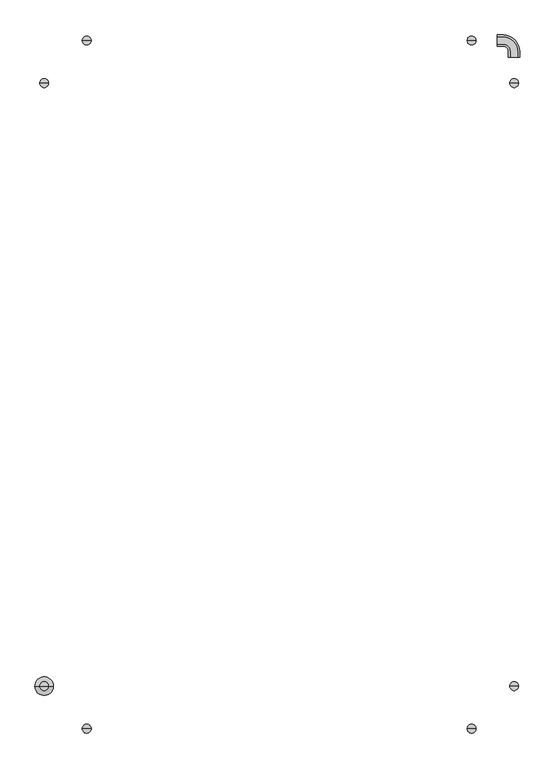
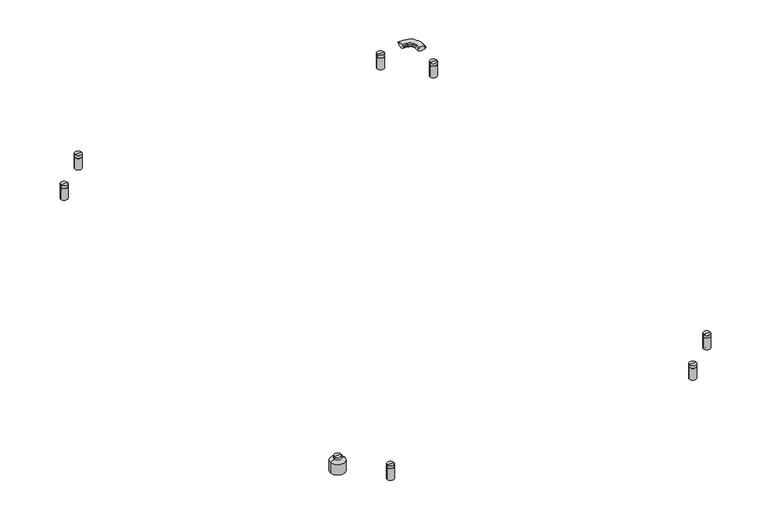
"""IFC4 building model written with IfcOpenShell, lengths in millimetres: light fixture geometry, ARTEMIDE-AoL-StandAlone-SquareRectangular_WallCeiling : StandALone_SemiRecessed_SquareRectangular-1321x1911mm 11754lm 3000K."""

from ifc_helpers import new_model, si_unit, point, frame, origin, place, context, project, spatial, polyline, circle_curve, ellipse_curve, trimmed, source, transform, mapped, element, save
from ifc_brep_helpers import plane_surface, cylinder_surface, revolved_surface, advanced_brep


def light_fixture_9279e79d(model_context):
    return source(origin(), model_context, "Body", "AdvancedBrep", [
        advanced_brep(
        [(25.0, 0.0, 54.0), (37.0, 0.0, 54.0), (13.0, 0.0, 54.0), (0.0, 0.0, 0.0), (50.0, 0.0, 0.0), (25.0, 0.0, 0.0), (0.0, 0.0, 37.5120373), (50.0, 0.0, 37.5120373), (13.0, 0.0, 44.4453706), (37.0, 0.0, 44.4453706)],
        [
            (0, 1),
            (1, 2, circle_curve(frame((25.0, 0.0, 54.0), z_axis=(0.0, 0.0, 1.0), x_axis=(1.0, 0.0, 0.0)), 12.0)),
            (2, 0),
            (2, 1, circle_curve(frame((25.0, 0.0, 54.0), z_axis=(0.0, 0.0, 1.0), x_axis=(1.0, 0.0, 0.0)), 12.0)),
            (3, 4, circle_curve(frame((25.0, 0.0, 0.0), z_axis=(0.0, 0.0, -1.0), x_axis=(1.0, 0.0, 0.0)), 25.0)),
            (4, 5),
            (5, 3),
            (4, 3, circle_curve(frame((25.0, 0.0, 0.0), z_axis=(0.0, 0.0, -1.0), x_axis=(1.0, 0.0, 0.0)), 25.0)),
            (6, 7, circle_curve(frame((25.0, 0.0, 37.5120373), z_axis=(0.0, 0.0, -1.0), x_axis=(1.0, 0.0, 0.0)), 25.0)),
            (7, 4),
            (3, 6),
            (7, 6, circle_curve(frame((25.0, 0.0, 37.5120373), z_axis=(0.0, 0.0, -1.0), x_axis=(1.0, 0.0, 0.0)), 25.0)),
            (8, 9, circle_curve(frame((25.0, 0.0, 44.4453706), z_axis=(0.0, 0.0, -1.0), x_axis=(1.0, 0.0, 0.0)), 12.0)),
            (9, 7),
            (6, 8),
            (9, 8, circle_curve(frame((25.0, 0.0, 44.4453706), z_axis=(0.0, 0.0, -1.0), x_axis=(1.0, 0.0, 0.0)), 12.0)),
            (1, 9),
            (8, 2),
        ],
        [
            plane_surface(frame((25.0, 0.0, 54.0), z_axis=(0.0, 0.0, 1.0), x_axis=(1.0, 0.0, 0.0))),
            plane_surface(frame((25.0, 0.0, 0.0), z_axis=(0.0, 0.0, -1.0), x_axis=(1.0, 0.0, 0.0))),
            cylinder_surface(frame((25.0, 0.0, -58.83358), z_axis=(0.0, 0.0, 1.0), x_axis=(1.0, 0.0, 0.0)), 25.0),
            revolved_surface(polyline([(50.0, 0.0, 37.5120373), (37.0, 0.0, 44.4453706)]), (25.0, 0.0, -58.83358), (0.0, 0.0, 1.0)),
            cylinder_surface(frame((25.0, 0.0, -58.83358), z_axis=(0.0, 0.0, 1.0), x_axis=(1.0, 0.0, 0.0)), 12.0),
        ],
        [
            (0, [[1, 2, 3]]),
            (0, [[-3, 4, -1]]),
            (1, [[5, 6, 7]]),
            (1, [[8, -7, -6]]),
            (2, [[9, 10, -5, 11]]),
            (2, [[12, -11, -8, -10]]),
            (3, [[13, 14, -9, 15]]),
            (3, [[16, -15, -12, -14]]),
            (4, [[-2, 17, -13, 18]]),
            (4, [[-4, -18, -16, -17]]),
        ],
    ),
        advanced_brep(
        [(152.0, 1746.0, 1.0), (128.0, 1746.0, 1.0), (134.5, 1746.0, 1.0), (145.5, 1746.0, 1.0), (152.0, 1746.0, 42.5), (128.0, 1746.0, 42.5), (149.5243756, 1746.0, 42.5), (130.4756244, 1746.0, 42.5), (149.5243756, 1746.0, 43.4995055), (130.4756244, 1746.0, 43.4995055), (152.0, 1746.0, 43.4995055), (128.0, 1746.0, 43.4995055), (152.0, 1746.0, 52.9579379), (128.0, 1746.0, 52.9579379), (140.0, 1746.0, 52.9579379), (145.5, 1746.0, 0.0), (134.5, 1746.0, 0.0), (140.0, 1746.0, 0.0)],
        [
            (0, 1, circle_curve(frame((140.0, 1746.0, 1.0), z_axis=(0.0, 0.0, -1.0), x_axis=(-1.0, 0.0, 0.0)), 12.0)),
            (1, 2),
            (2, 3, circle_curve(frame((140.0, 1746.0, 1.0), z_axis=(0.0, 0.0, 1.0), x_axis=(-1.0, 0.0, 0.0)), 5.5)),
            (3, 0),
            (1, 0, circle_curve(frame((140.0, 1746.0, 1.0), z_axis=(0.0, 0.0, -1.0), x_axis=(-1.0, 0.0, 0.0)), 12.0)),
            (3, 2, circle_curve(frame((140.0, 1746.0, 1.0), z_axis=(0.0, 0.0, 1.0), x_axis=(-1.0, 0.0, 0.0)), 5.5)),
            (4, 5, circle_curve(frame((140.0, 1746.0, 42.5), z_axis=(0.0, 0.0, -1.0), x_axis=(-1.0, 0.0, 0.0)), 12.0)),
            (5, 1),
            (0, 4),
            (5, 4, circle_curve(frame((140.0, 1746.0, 42.5), z_axis=(0.0, 0.0, -1.0), x_axis=(-1.0, 0.0, 0.0)), 12.0)),
            (6, 7, circle_curve(frame((140.0, 1746.0, 42.5), z_axis=(0.0, 0.0, -1.0), x_axis=(-1.0, 0.0, 0.0)), 9.5243756)),
            (7, 5),
            (4, 6),
            (7, 6, circle_curve(frame((140.0, 1746.0, 42.5), z_axis=(0.0, 0.0, -1.0), x_axis=(-1.0, 0.0, 0.0)), 9.5243756)),
            (8, 9, circle_curve(frame((140.0, 1746.0, 43.4995055), z_axis=(0.0, 0.0, -1.0), x_axis=(-1.0, 0.0, 0.0)), 9.5243756)),
            (9, 7),
            (6, 8),
            (9, 8, circle_curve(frame((140.0, 1746.0, 43.4995055), z_axis=(0.0, 0.0, -1.0), x_axis=(-1.0, 0.0, 0.0)), 9.5243756)),
            (10, 11, circle_curve(frame((140.0, 1746.0, 43.4995055), z_axis=(0.0, 0.0, -1.0), x_axis=(-1.0, 0.0, 0.0)), 12.0)),
            (11, 9),
            (8, 10),
            (11, 10, circle_curve(frame((140.0, 1746.0, 43.4995055), z_axis=(0.0, 0.0, -1.0), x_axis=(-1.0, 0.0, 0.0)), 12.0)),
            (12, 13, circle_curve(frame((140.0, 1746.0, 52.9579379), z_axis=(0.0, 0.0, -1.0), x_axis=(-1.0, 0.0, 0.0)), 12.0)),
            (13, 11),
            (10, 12),
            (13, 12, circle_curve(frame((140.0, 1746.0, 52.9579379), z_axis=(0.0, 0.0, -1.0), x_axis=(-1.0, 0.0, 0.0)), 12.0)),
            (14, 13),
            (12, 14),
            (15, 16, circle_curve(frame((140.0, 1746.0, 0.0), z_axis=(0.0, 0.0, -1.0), x_axis=(-1.0, 0.0, 0.0)), 5.5)),
            (16, 17),
            (17, 15),
            (16, 15, circle_curve(frame((140.0, 1746.0, 0.0), z_axis=(0.0, 0.0, -1.0), x_axis=(-1.0, 0.0, 0.0)), 5.5)),
            (2, 16),
            (15, 3),
        ],
        [
            plane_surface(frame((140.0, 1746.0, 1.0), z_axis=(0.0, 0.0, -1.0), x_axis=(-1.0, 0.0, 0.0))),
            cylinder_surface(frame((140.0, 1746.0, -58.83358), z_axis=(0.0, 0.0, 1.0), x_axis=(-1.0, 0.0, 0.0)), 12.0),
            plane_surface(frame((140.0, 1746.0, 42.5), z_axis=(0.0, 0.0, 1.0), x_axis=(-1.0, 0.0, 0.0))),
            cylinder_surface(frame((140.0, 1746.0, -58.83358), z_axis=(0.0, 0.0, 1.0), x_axis=(-1.0, 0.0, 0.0)), 9.5243756),
            plane_surface(frame((140.0, 1746.0, 43.4995055), z_axis=(0.0, 0.0, -1.0), x_axis=(-1.0, 0.0, 0.0))),
            plane_surface(frame((140.0, 1746.0, 52.9579379), z_axis=(0.0, 0.0, 1.0), x_axis=(-1.0, 0.0, 0.0))),
            plane_surface(frame((140.0, 1746.0, 0.0), z_axis=(0.0, 0.0, -1.0), x_axis=(-1.0, 0.0, 0.0))),
            cylinder_surface(frame((140.0, 1746.0, -58.83358), z_axis=(0.0, 0.0, 1.0), x_axis=(-1.0, 0.0, 0.0)), 5.5),
        ],
        [
            (0, [[1, 2, 3, 4]]),
            (0, [[5, -4, 6, -2]]),
            (1, [[7, 8, -1, 9]]),
            (1, [[10, -9, -5, -8]]),
            (2, [[11, 12, -7, 13]]),
            (2, [[14, -13, -10, -12]]),
            (3, [[15, 16, -11, 17]]),
            (3, [[18, -17, -14, -16]]),
            (4, [[19, 20, -15, 21]]),
            (4, [[22, -21, -18, -20]]),
            (1, [[23, 24, -19, 25]]),
            (1, [[26, -25, -22, -24]]),
            (5, [[27, -23, 28]]),
            (5, [[-28, -26, -27]]),
            (6, [[29, 30, 31]]),
            (6, [[32, -31, -30]]),
            (7, [[-3, 33, -29, 34]]),
            (7, [[-6, -34, -32, -33]]),
        ],
    ),
        advanced_brep(
        [(152.0, -115.0, 1.0), (128.0, -115.0, 1.0), (134.5, -115.0, 1.0), (145.5, -115.0, 1.0), (152.0, -115.0, 42.5), (128.0, -115.0, 42.5), (149.5243756, -115.0, 42.5), (130.4756244, -115.0, 42.5), (149.5243756, -115.0, 43.4995055), (130.4756244, -115.0, 43.4995055), (152.0, -115.0, 43.4995055), (128.0, -115.0, 43.4995055), (152.0, -115.0, 52.9579379), (128.0, -115.0, 52.9579379), (140.0, -115.0, 52.9579379), (145.5, -115.0, 0.0), (134.5, -115.0, 0.0), (140.0, -115.0, 0.0)],
        [
            (0, 1, circle_curve(frame((140.0, -115.0, 1.0), z_axis=(0.0, 0.0, -1.0), x_axis=(-1.0, 0.0, 0.0)), 12.0)),
            (1, 2),
            (2, 3, circle_curve(frame((140.0, -115.0, 1.0), z_axis=(0.0, 0.0, 1.0), x_axis=(-1.0, 0.0, 0.0)), 5.5)),
            (3, 0),
            (1, 0, circle_curve(frame((140.0, -115.0, 1.0), z_axis=(0.0, 0.0, -1.0), x_axis=(-1.0, 0.0, 0.0)), 12.0)),
            (3, 2, circle_curve(frame((140.0, -115.0, 1.0), z_axis=(0.0, 0.0, 1.0), x_axis=(-1.0, 0.0, 0.0)), 5.5)),
            (4, 5, circle_curve(frame((140.0, -115.0, 42.5), z_axis=(0.0, 0.0, -1.0), x_axis=(-1.0, 0.0, 0.0)), 12.0)),
            (5, 1),
            (0, 4),
            (5, 4, circle_curve(frame((140.0, -115.0, 42.5), z_axis=(0.0, 0.0, -1.0), x_axis=(-1.0, 0.0, 0.0)), 12.0)),
            (6, 7, circle_curve(frame((140.0, -115.0, 42.5), z_axis=(0.0, 0.0, -1.0), x_axis=(-1.0, 0.0, 0.0)), 9.5243756)),
            (7, 5),
            (4, 6),
            (7, 6, circle_curve(frame((140.0, -115.0, 42.5), z_axis=(0.0, 0.0, -1.0), x_axis=(-1.0, 0.0, 0.0)), 9.5243756)),
            (8, 9, circle_curve(frame((140.0, -115.0, 43.4995055), z_axis=(0.0, 0.0, -1.0), x_axis=(-1.0, 0.0, 0.0)), 9.5243756)),
            (9, 7),
            (6, 8),
            (9, 8, circle_curve(frame((140.0, -115.0, 43.4995055), z_axis=(0.0, 0.0, -1.0), x_axis=(-1.0, 0.0, 0.0)), 9.5243756)),
            (10, 11, circle_curve(frame((140.0, -115.0, 43.4995055), z_axis=(0.0, 0.0, -1.0), x_axis=(-1.0, 0.0, 0.0)), 12.0)),
            (11, 9),
            (8, 10),
            (11, 10, circle_curve(frame((140.0, -115.0, 43.4995055), z_axis=(0.0, 0.0, -1.0), x_axis=(-1.0, 0.0, 0.0)), 12.0)),
            (12, 13, circle_curve(frame((140.0, -115.0, 52.9579379), z_axis=(0.0, 0.0, -1.0), x_axis=(-1.0, 0.0, 0.0)), 12.0)),
            (13, 11),
            (10, 12),
            (13, 12, circle_curve(frame((140.0, -115.0, 52.9579379), z_axis=(0.0, 0.0, -1.0), x_axis=(-1.0, 0.0, 0.0)), 12.0)),
            (14, 13),
            (12, 14),
            (15, 16, circle_curve(frame((140.0, -115.0, 0.0), z_axis=(0.0, 0.0, -1.0), x_axis=(-1.0, 0.0, 0.0)), 5.5)),
            (16, 17),
            (17, 15),
            (16, 15, circle_curve(frame((140.0, -115.0, 0.0), z_axis=(0.0, 0.0, -1.0), x_axis=(-1.0, 0.0, 0.0)), 5.5)),
            (2, 16),
            (15, 3),
        ],
        [
            plane_surface(frame((140.0, -115.0, 1.0), z_axis=(0.0, 0.0, -1.0), x_axis=(-1.0, 0.0, 0.0))),
            cylinder_surface(frame((140.0, -115.0, -58.83358), z_axis=(0.0, 0.0, 1.0), x_axis=(-1.0, 0.0, 0.0)), 12.0),
            plane_surface(frame((140.0, -115.0, 42.5), z_axis=(0.0, 0.0, 1.0), x_axis=(-1.0, 0.0, 0.0))),
            cylinder_surface(frame((140.0, -115.0, -58.83358), z_axis=(0.0, 0.0, 1.0), x_axis=(-1.0, 0.0, 0.0)), 9.5243756),
            plane_surface(frame((140.0, -115.0, 43.4995055), z_axis=(0.0, 0.0, -1.0), x_axis=(-1.0, 0.0, 0.0))),
            plane_surface(frame((140.0, -115.0, 52.9579379), z_axis=(0.0, 0.0, 1.0), x_axis=(-1.0, 0.0, 0.0))),
            plane_surface(frame((140.0, -115.0, 0.0), z_axis=(0.0, 0.0, -1.0), x_axis=(-1.0, 0.0, 0.0))),
            cylinder_surface(frame((140.0, -115.0, -58.83358), z_axis=(0.0, 0.0, 1.0), x_axis=(-1.0, 0.0, 0.0)), 5.5),
        ],
        [
            (0, [[1, 2, 3, 4]]),
            (0, [[5, -4, 6, -2]]),
            (1, [[7, 8, -1, 9]]),
            (1, [[10, -9, -5, -8]]),
            (2, [[11, 12, -7, 13]]),
            (2, [[14, -13, -10, -12]]),
            (3, [[15, 16, -11, 17]]),
            (3, [[18, -17, -14, -16]]),
            (4, [[19, 20, -15, 21]]),
            (4, [[22, -21, -18, -20]]),
            (1, [[23, 24, -19, 25]]),
            (1, [[26, -25, -22, -24]]),
            (5, [[27, -23, 28]]),
            (5, [[-28, -26, -27]]),
            (6, [[29, 30, 31]]),
            (6, [[32, -31, -30]]),
            (7, [[-3, 33, -29, 34]]),
            (7, [[-6, -34, -32, -33]]),
        ],
    ),
        advanced_brep(
        [(1193.0, 1746.0, 1.0), (1169.0, 1746.0, 1.0), (1175.5, 1746.0, 1.0), (1186.5, 1746.0, 1.0), (1193.0, 1746.0, 42.5), (1169.0, 1746.0, 42.5), (1190.5243756, 1746.0, 42.5), (1171.4756244, 1746.0, 42.5), (1190.5243756, 1746.0, 43.4995055), (1171.4756244, 1746.0, 43.4995055), (1193.0, 1746.0, 43.4995055), (1169.0, 1746.0, 43.4995055), (1193.0, 1746.0, 52.9579379), (1169.0, 1746.0, 52.9579379), (1181.0, 1746.0, 52.9579379), (1186.5, 1746.0, 0.0), (1175.5, 1746.0, 0.0), (1181.0, 1746.0, 0.0)],
        [
            (0, 1, circle_curve(frame((1181.0, 1746.0, 1.0), z_axis=(0.0, 0.0, -1.0), x_axis=(-1.0, 0.0, 0.0)), 12.0)),
            (1, 2),
            (2, 3, circle_curve(frame((1181.0, 1746.0, 1.0), z_axis=(0.0, 0.0, 1.0), x_axis=(-1.0, 0.0, 0.0)), 5.5)),
            (3, 0),
            (1, 0, circle_curve(frame((1181.0, 1746.0, 1.0), z_axis=(0.0, 0.0, -1.0), x_axis=(-1.0, 0.0, 0.0)), 12.0)),
            (3, 2, circle_curve(frame((1181.0, 1746.0, 1.0), z_axis=(0.0, 0.0, 1.0), x_axis=(-1.0, 0.0, 0.0)), 5.5)),
            (4, 5, circle_curve(frame((1181.0, 1746.0, 42.5), z_axis=(0.0, 0.0, -1.0), x_axis=(-1.0, 0.0, 0.0)), 12.0)),
            (5, 1),
            (0, 4),
            (5, 4, circle_curve(frame((1181.0, 1746.0, 42.5), z_axis=(0.0, 0.0, -1.0), x_axis=(-1.0, 0.0, 0.0)), 12.0)),
            (6, 7, circle_curve(frame((1181.0, 1746.0, 42.5), z_axis=(0.0, 0.0, -1.0), x_axis=(-1.0, 0.0, 0.0)), 9.5243756)),
            (7, 5),
            (4, 6),
            (7, 6, circle_curve(frame((1181.0, 1746.0, 42.5), z_axis=(0.0, 0.0, -1.0), x_axis=(-1.0, 0.0, 0.0)), 9.5243756)),
            (8, 9, circle_curve(frame((1181.0, 1746.0, 43.4995055), z_axis=(0.0, 0.0, -1.0), x_axis=(-1.0, 0.0, 0.0)), 9.5243756)),
            (9, 7),
            (6, 8),
            (9, 8, circle_curve(frame((1181.0, 1746.0, 43.4995055), z_axis=(0.0, 0.0, -1.0), x_axis=(-1.0, 0.0, 0.0)), 9.5243756)),
            (10, 11, circle_curve(frame((1181.0, 1746.0, 43.4995055), z_axis=(0.0, 0.0, -1.0), x_axis=(-1.0, 0.0, 0.0)), 12.0)),
            (11, 9),
            (8, 10),
            (11, 10, circle_curve(frame((1181.0, 1746.0, 43.4995055), z_axis=(0.0, 0.0, -1.0), x_axis=(-1.0, 0.0, 0.0)), 12.0)),
            (12, 13, circle_curve(frame((1181.0, 1746.0, 52.9579379), z_axis=(0.0, 0.0, -1.0), x_axis=(-1.0, 0.0, 0.0)), 12.0)),
            (13, 11),
            (10, 12),
            (13, 12, circle_curve(frame((1181.0, 1746.0, 52.9579379), z_axis=(0.0, 0.0, -1.0), x_axis=(-1.0, 0.0, 0.0)), 12.0)),
            (14, 13),
            (12, 14),
            (15, 16, circle_curve(frame((1181.0, 1746.0, 0.0), z_axis=(0.0, 0.0, -1.0), x_axis=(-1.0, 0.0, 0.0)), 5.5)),
            (16, 17),
            (17, 15),
            (16, 15, circle_curve(frame((1181.0, 1746.0, 0.0), z_axis=(0.0, 0.0, -1.0), x_axis=(-1.0, 0.0, 0.0)), 5.5)),
            (2, 16),
            (15, 3),
        ],
        [
            plane_surface(frame((1181.0, 1746.0, 1.0), z_axis=(0.0, 0.0, -1.0), x_axis=(-1.0, 0.0, 0.0))),
            cylinder_surface(frame((1181.0, 1746.0, -58.83358), z_axis=(0.0, 0.0, 1.0), x_axis=(-1.0, 0.0, 0.0)), 12.0),
            plane_surface(frame((1181.0, 1746.0, 42.5), z_axis=(0.0, 0.0, 1.0), x_axis=(-1.0, 0.0, 0.0))),
            cylinder_surface(frame((1181.0, 1746.0, -58.83358), z_axis=(0.0, 0.0, 1.0), x_axis=(-1.0, 0.0, 0.0)), 9.5243756),
            plane_surface(frame((1181.0, 1746.0, 43.4995055), z_axis=(0.0, 0.0, -1.0), x_axis=(-1.0, 0.0, 0.0))),
            plane_surface(frame((1181.0, 1746.0, 52.9579379), z_axis=(0.0, 0.0, 1.0), x_axis=(-1.0, 0.0, 0.0))),
            plane_surface(frame((1181.0, 1746.0, 0.0), z_axis=(0.0, 0.0, -1.0), x_axis=(-1.0, 0.0, 0.0))),
            cylinder_surface(frame((1181.0, 1746.0, -58.83358), z_axis=(0.0, 0.0, 1.0), x_axis=(-1.0, 0.0, 0.0)), 5.5),
        ],
        [
            (0, [[1, 2, 3, 4]]),
            (0, [[5, -4, 6, -2]]),
            (1, [[7, 8, -1, 9]]),
            (1, [[10, -9, -5, -8]]),
            (2, [[11, 12, -7, 13]]),
            (2, [[14, -13, -10, -12]]),
            (3, [[15, 16, -11, 17]]),
            (3, [[18, -17, -14, -16]]),
            (4, [[19, 20, -15, 21]]),
            (4, [[22, -21, -18, -20]]),
            (1, [[23, 24, -19, 25]]),
            (1, [[26, -25, -22, -24]]),
            (5, [[27, -23, 28]]),
            (5, [[-28, -26, -27]]),
            (6, [[29, 30, 31]]),
            (6, [[32, -31, -30]]),
            (7, [[-3, 33, -29, 34]]),
            (7, [[-6, -34, -32, -33]]),
        ],
    ),
        advanced_brep(
        [(1193.0, -115.0, 1.0), (1169.0, -115.0, 1.0), (1175.5, -115.0, 1.0), (1186.5, -115.0, 1.0), (1193.0, -115.0, 42.5), (1169.0, -115.0, 42.5), (1190.5243756, -115.0, 42.5), (1171.4756244, -115.0, 42.5), (1190.5243756, -115.0, 43.4995055), (1171.4756244, -115.0, 43.4995055), (1193.0, -115.0, 43.4995055), (1169.0, -115.0, 43.4995055), (1193.0, -115.0, 52.9579379), (1169.0, -115.0, 52.9579379), (1181.0, -115.0, 52.9579379), (1186.5, -115.0, 0.0), (1175.5, -115.0, 0.0), (1181.0, -115.0, 0.0)],
        [
            (0, 1, circle_curve(frame((1181.0, -115.0, 1.0), z_axis=(0.0, 0.0, -1.0), x_axis=(-1.0, 0.0, 0.0)), 12.0)),
            (1, 2),
            (2, 3, circle_curve(frame((1181.0, -115.0, 1.0), z_axis=(0.0, 0.0, 1.0), x_axis=(-1.0, 0.0, 0.0)), 5.5)),
            (3, 0),
            (1, 0, circle_curve(frame((1181.0, -115.0, 1.0), z_axis=(0.0, 0.0, -1.0), x_axis=(-1.0, 0.0, 0.0)), 12.0)),
            (3, 2, circle_curve(frame((1181.0, -115.0, 1.0), z_axis=(0.0, 0.0, 1.0), x_axis=(-1.0, 0.0, 0.0)), 5.5)),
            (4, 5, circle_curve(frame((1181.0, -115.0, 42.5), z_axis=(0.0, 0.0, -1.0), x_axis=(-1.0, 0.0, 0.0)), 12.0)),
            (5, 1),
            (0, 4),
            (5, 4, circle_curve(frame((1181.0, -115.0, 42.5), z_axis=(0.0, 0.0, -1.0), x_axis=(-1.0, 0.0, 0.0)), 12.0)),
            (6, 7, circle_curve(frame((1181.0, -115.0, 42.5), z_axis=(0.0, 0.0, -1.0), x_axis=(-1.0, 0.0, 0.0)), 9.5243756)),
            (7, 5),
            (4, 6),
            (7, 6, circle_curve(frame((1181.0, -115.0, 42.5), z_axis=(0.0, 0.0, -1.0), x_axis=(-1.0, 0.0, 0.0)), 9.5243756)),
            (8, 9, circle_curve(frame((1181.0, -115.0, 43.4995055), z_axis=(0.0, 0.0, -1.0), x_axis=(-1.0, 0.0, 0.0)), 9.5243756)),
            (9, 7),
            (6, 8),
            (9, 8, circle_curve(frame((1181.0, -115.0, 43.4995055), z_axis=(0.0, 0.0, -1.0), x_axis=(-1.0, 0.0, 0.0)), 9.5243756)),
            (10, 11, circle_curve(frame((1181.0, -115.0, 43.4995055), z_axis=(0.0, 0.0, -1.0), x_axis=(-1.0, 0.0, 0.0)), 12.0)),
            (11, 9),
            (8, 10),
            (11, 10, circle_curve(frame((1181.0, -115.0, 43.4995055), z_axis=(0.0, 0.0, -1.0), x_axis=(-1.0, 0.0, 0.0)), 12.0)),
            (12, 13, circle_curve(frame((1181.0, -115.0, 52.9579379), z_axis=(0.0, 0.0, -1.0), x_axis=(-1.0, 0.0, 0.0)), 12.0)),
            (13, 11),
            (10, 12),
            (13, 12, circle_curve(frame((1181.0, -115.0, 52.9579379), z_axis=(0.0, 0.0, -1.0), x_axis=(-1.0, 0.0, 0.0)), 12.0)),
            (14, 13),
            (12, 14),
            (15, 16, circle_curve(frame((1181.0, -115.0, 0.0), z_axis=(0.0, 0.0, -1.0), x_axis=(-1.0, 0.0, 0.0)), 5.5)),
            (16, 17),
            (17, 15),
            (16, 15, circle_curve(frame((1181.0, -115.0, 0.0), z_axis=(0.0, 0.0, -1.0), x_axis=(-1.0, 0.0, 0.0)), 5.5)),
            (2, 16),
            (15, 3),
        ],
        [
            plane_surface(frame((1181.0, -115.0, 1.0), z_axis=(0.0, 0.0, -1.0), x_axis=(-1.0, 0.0, 0.0))),
            cylinder_surface(frame((1181.0, -115.0, -58.83358), z_axis=(0.0, 0.0, 1.0), x_axis=(-1.0, 0.0, 0.0)), 12.0),
            plane_surface(frame((1181.0, -115.0, 42.5), z_axis=(0.0, 0.0, 1.0), x_axis=(-1.0, 0.0, 0.0))),
            cylinder_surface(frame((1181.0, -115.0, -58.83358), z_axis=(0.0, 0.0, 1.0), x_axis=(-1.0, 0.0, 0.0)), 9.5243756),
            plane_surface(frame((1181.0, -115.0, 43.4995055), z_axis=(0.0, 0.0, -1.0), x_axis=(-1.0, 0.0, 0.0))),
            plane_surface(frame((1181.0, -115.0, 52.9579379), z_axis=(0.0, 0.0, 1.0), x_axis=(-1.0, 0.0, 0.0))),
            plane_surface(frame((1181.0, -115.0, 0.0), z_axis=(0.0, 0.0, -1.0), x_axis=(-1.0, 0.0, 0.0))),
            cylinder_surface(frame((1181.0, -115.0, -58.83358), z_axis=(0.0, 0.0, 1.0), x_axis=(-1.0, 0.0, 0.0)), 5.5),
        ],
        [
            (0, [[1, 2, 3, 4]]),
            (0, [[5, -4, 6, -2]]),
            (1, [[7, 8, -1, 9]]),
            (1, [[10, -9, -5, -8]]),
            (2, [[11, 12, -7, 13]]),
            (2, [[14, -13, -10, -12]]),
            (3, [[15, 16, -11, 17]]),
            (3, [[18, -17, -14, -16]]),
            (4, [[19, 20, -15, 21]]),
            (4, [[22, -21, -18, -20]]),
            (1, [[23, 24, -19, 25]]),
            (1, [[26, -25, -22, -24]]),
            (5, [[27, -23, 28]]),
            (5, [[-28, -26, -27]]),
            (6, [[29, 30, 31]]),
            (6, [[32, -31, -30]]),
            (7, [[-3, 33, -29, 34]]),
            (7, [[-6, -34, -32, -33]]),
        ],
    ),
        advanced_brep(
        [(37.0, 1631.0, 1.0), (13.0, 1631.0, 1.0), (19.5, 1631.0, 1.0), (30.5, 1631.0, 1.0), (37.0, 1631.0, 42.5), (13.0, 1631.0, 42.5), (34.5243756, 1631.0, 42.5), (15.4756244, 1631.0, 42.5), (34.5243756, 1631.0, 43.4995055), (15.4756244, 1631.0, 43.4995055), (37.0, 1631.0, 43.4995055), (13.0, 1631.0, 43.4995055), (37.0, 1631.0, 52.9579379), (13.0, 1631.0, 52.9579379), (25.0, 1631.0, 52.9579379), (30.5, 1631.0, 0.0), (19.5, 1631.0, 0.0), (25.0, 1631.0, 0.0)],
        [
            (0, 1, circle_curve(frame((25.0, 1631.0, 1.0), z_axis=(0.0, 0.0, -1.0), x_axis=(-1.0, 0.0, 0.0)), 12.0)),
            (1, 2),
            (2, 3, circle_curve(frame((25.0, 1631.0, 1.0), z_axis=(0.0, 0.0, 1.0), x_axis=(-1.0, 0.0, 0.0)), 5.5)),
            (3, 0),
            (1, 0, circle_curve(frame((25.0, 1631.0, 1.0), z_axis=(0.0, 0.0, -1.0), x_axis=(-1.0, 0.0, 0.0)), 12.0)),
            (3, 2, circle_curve(frame((25.0, 1631.0, 1.0), z_axis=(0.0, 0.0, 1.0), x_axis=(-1.0, 0.0, 0.0)), 5.5)),
            (4, 5, circle_curve(frame((25.0, 1631.0, 42.5), z_axis=(0.0, 0.0, -1.0), x_axis=(-1.0, 0.0, 0.0)), 12.0)),
            (5, 1),
            (0, 4),
            (5, 4, circle_curve(frame((25.0, 1631.0, 42.5), z_axis=(0.0, 0.0, -1.0), x_axis=(-1.0, 0.0, 0.0)), 12.0)),
            (6, 7, circle_curve(frame((25.0, 1631.0, 42.5), z_axis=(0.0, 0.0, -1.0), x_axis=(-1.0, 0.0, 0.0)), 9.5243756)),
            (7, 5),
            (4, 6),
            (7, 6, circle_curve(frame((25.0, 1631.0, 42.5), z_axis=(0.0, 0.0, -1.0), x_axis=(-1.0, 0.0, 0.0)), 9.5243756)),
            (8, 9, circle_curve(frame((25.0, 1631.0, 43.4995055), z_axis=(0.0, 0.0, -1.0), x_axis=(-1.0, 0.0, 0.0)), 9.5243756)),
            (9, 7),
            (6, 8),
            (9, 8, circle_curve(frame((25.0, 1631.0, 43.4995055), z_axis=(0.0, 0.0, -1.0), x_axis=(-1.0, 0.0, 0.0)), 9.5243756)),
            (10, 11, circle_curve(frame((25.0, 1631.0, 43.4995055), z_axis=(0.0, 0.0, -1.0), x_axis=(-1.0, 0.0, 0.0)), 12.0)),
            (11, 9),
            (8, 10),
            (11, 10, circle_curve(frame((25.0, 1631.0, 43.4995055), z_axis=(0.0, 0.0, -1.0), x_axis=(-1.0, 0.0, 0.0)), 12.0)),
            (12, 13, circle_curve(frame((25.0, 1631.0, 52.9579379), z_axis=(0.0, 0.0, -1.0), x_axis=(-1.0, 0.0, 0.0)), 12.0)),
            (13, 11),
            (10, 12),
            (13, 12, circle_curve(frame((25.0, 1631.0, 52.9579379), z_axis=(0.0, 0.0, -1.0), x_axis=(-1.0, 0.0, 0.0)), 12.0)),
            (14, 13),
            (12, 14),
            (15, 16, circle_curve(frame((25.0, 1631.0, 0.0), z_axis=(0.0, 0.0, -1.0), x_axis=(-1.0, 0.0, 0.0)), 5.5)),
            (16, 17),
            (17, 15),
            (16, 15, circle_curve(frame((25.0, 1631.0, 0.0), z_axis=(0.0, 0.0, -1.0), x_axis=(-1.0, 0.0, 0.0)), 5.5)),
            (2, 16),
            (15, 3),
        ],
        [
            plane_surface(frame((25.0, 1631.0, 1.0), z_axis=(0.0, 0.0, -1.0), x_axis=(-1.0, 0.0, 0.0))),
            cylinder_surface(frame((25.0, 1631.0, -58.83358), z_axis=(0.0, 0.0, 1.0), x_axis=(-1.0, 0.0, 0.0)), 12.0),
            plane_surface(frame((25.0, 1631.0, 42.5), z_axis=(0.0, 0.0, 1.0), x_axis=(-1.0, 0.0, 0.0))),
            cylinder_surface(frame((25.0, 1631.0, -58.83358), z_axis=(0.0, 0.0, 1.0), x_axis=(-1.0, 0.0, 0.0)), 9.5243756),
            plane_surface(frame((25.0, 1631.0, 43.4995055), z_axis=(0.0, 0.0, -1.0), x_axis=(-1.0, 0.0, 0.0))),
            plane_surface(frame((25.0, 1631.0, 52.9579379), z_axis=(0.0, 0.0, 1.0), x_axis=(-1.0, 0.0, 0.0))),
            plane_surface(frame((25.0, 1631.0, 0.0), z_axis=(0.0, 0.0, -1.0), x_axis=(-1.0, 0.0, 0.0))),
            cylinder_surface(frame((25.0, 1631.0, -58.83358), z_axis=(0.0, 0.0, 1.0), x_axis=(-1.0, 0.0, 0.0)), 5.5),
        ],
        [
            (0, [[1, 2, 3, 4]]),
            (0, [[5, -4, 6, -2]]),
            (1, [[7, 8, -1, 9]]),
            (1, [[10, -9, -5, -8]]),
            (2, [[11, 12, -7, 13]]),
            (2, [[14, -13, -10, -12]]),
            (3, [[15, 16, -11, 17]]),
            (3, [[18, -17, -14, -16]]),
            (4, [[19, 20, -15, 21]]),
            (4, [[22, -21, -18, -20]]),
            (1, [[23, 24, -19, 25]]),
            (1, [[26, -25, -22, -24]]),
            (5, [[27, -23, 28]]),
            (5, [[-28, -26, -27]]),
            (6, [[29, 30, 31]]),
            (6, [[32, -31, -30]]),
            (7, [[-3, 33, -29, 34]]),
            (7, [[-6, -34, -32, -33]]),
        ],
    ),
        advanced_brep(
        [(1308.0, 1631.0, 1.0), (1284.0, 1631.0, 1.0), (1290.5, 1631.0, 1.0), (1301.5, 1631.0, 1.0), (1308.0, 1631.0, 42.5), (1284.0, 1631.0, 42.5), (1305.5243756, 1631.0, 42.5), (1286.4756244, 1631.0, 42.5), (1305.5243756, 1631.0, 43.4995055), (1286.4756244, 1631.0, 43.4995055), (1308.0, 1631.0, 43.4995055), (1284.0, 1631.0, 43.4995055), (1308.0, 1631.0, 52.9579379), (1284.0, 1631.0, 52.9579379), (1296.0, 1631.0, 52.9579379), (1301.5, 1631.0, 0.0), (1290.5, 1631.0, 0.0), (1296.0, 1631.0, 0.0)],
        [
            (0, 1, circle_curve(frame((1296.0, 1631.0, 1.0), z_axis=(0.0, 0.0, -1.0), x_axis=(-1.0, 0.0, 0.0)), 12.0)),
            (1, 2),
            (2, 3, circle_curve(frame((1296.0, 1631.0, 1.0), z_axis=(0.0, 0.0, 1.0), x_axis=(-1.0, 0.0, 0.0)), 5.5)),
            (3, 0),
            (1, 0, circle_curve(frame((1296.0, 1631.0, 1.0), z_axis=(0.0, 0.0, -1.0), x_axis=(-1.0, 0.0, 0.0)), 12.0)),
            (3, 2, circle_curve(frame((1296.0, 1631.0, 1.0), z_axis=(0.0, 0.0, 1.0), x_axis=(-1.0, 0.0, 0.0)), 5.5)),
            (4, 5, circle_curve(frame((1296.0, 1631.0, 42.5), z_axis=(0.0, 0.0, -1.0), x_axis=(-1.0, 0.0, 0.0)), 12.0)),
            (5, 1),
            (0, 4),
            (5, 4, circle_curve(frame((1296.0, 1631.0, 42.5), z_axis=(0.0, 0.0, -1.0), x_axis=(-1.0, 0.0, 0.0)), 12.0)),
            (6, 7, circle_curve(frame((1296.0, 1631.0, 42.5), z_axis=(0.0, 0.0, -1.0), x_axis=(-1.0, 0.0, 0.0)), 9.5243756)),
            (7, 5),
            (4, 6),
            (7, 6, circle_curve(frame((1296.0, 1631.0, 42.5), z_axis=(0.0, 0.0, -1.0), x_axis=(-1.0, 0.0, 0.0)), 9.5243756)),
            (8, 9, circle_curve(frame((1296.0, 1631.0, 43.4995055), z_axis=(0.0, 0.0, -1.0), x_axis=(-1.0, 0.0, 0.0)), 9.5243756)),
            (9, 7),
            (6, 8),
            (9, 8, circle_curve(frame((1296.0, 1631.0, 43.4995055), z_axis=(0.0, 0.0, -1.0), x_axis=(-1.0, 0.0, 0.0)), 9.5243756)),
            (10, 11, circle_curve(frame((1296.0, 1631.0, 43.4995055), z_axis=(0.0, 0.0, -1.0), x_axis=(-1.0, 0.0, 0.0)), 12.0)),
            (11, 9),
            (8, 10),
            (11, 10, circle_curve(frame((1296.0, 1631.0, 43.4995055), z_axis=(0.0, 0.0, -1.0), x_axis=(-1.0, 0.0, 0.0)), 12.0)),
            (12, 13, circle_curve(frame((1296.0, 1631.0, 52.9579379), z_axis=(0.0, 0.0, -1.0), x_axis=(-1.0, 0.0, 0.0)), 12.0)),
            (13, 11),
            (10, 12),
            (13, 12, circle_curve(frame((1296.0, 1631.0, 52.9579379), z_axis=(0.0, 0.0, -1.0), x_axis=(-1.0, 0.0, 0.0)), 12.0)),
            (14, 13),
            (12, 14),
            (15, 16, circle_curve(frame((1296.0, 1631.0, 0.0), z_axis=(0.0, 0.0, -1.0), x_axis=(-1.0, 0.0, 0.0)), 5.5)),
            (16, 17),
            (17, 15),
            (16, 15, circle_curve(frame((1296.0, 1631.0, 0.0), z_axis=(0.0, 0.0, -1.0), x_axis=(-1.0, 0.0, 0.0)), 5.5)),
            (2, 16),
            (15, 3),
        ],
        [
            plane_surface(frame((1296.0, 1631.0, 1.0), z_axis=(0.0, 0.0, -1.0), x_axis=(-1.0, 0.0, 0.0))),
            cylinder_surface(frame((1296.0, 1631.0, -58.83358), z_axis=(0.0, 0.0, 1.0), x_axis=(-1.0, 0.0, 0.0)), 12.0),
            plane_surface(frame((1296.0, 1631.0, 42.5), z_axis=(0.0, 0.0, 1.0), x_axis=(-1.0, 0.0, 0.0))),
            cylinder_surface(frame((1296.0, 1631.0, -58.83358), z_axis=(0.0, 0.0, 1.0), x_axis=(-1.0, 0.0, 0.0)), 9.5243756),
            plane_surface(frame((1296.0, 1631.0, 43.4995055), z_axis=(0.0, 0.0, -1.0), x_axis=(-1.0, 0.0, 0.0))),
            plane_surface(frame((1296.0, 1631.0, 52.9579379), z_axis=(0.0, 0.0, 1.0), x_axis=(-1.0, 0.0, 0.0))),
            plane_surface(frame((1296.0, 1631.0, 0.0), z_axis=(0.0, 0.0, -1.0), x_axis=(-1.0, 0.0, 0.0))),
            cylinder_surface(frame((1296.0, 1631.0, -58.83358), z_axis=(0.0, 0.0, 1.0), x_axis=(-1.0, 0.0, 0.0)), 5.5),
        ],
        [
            (0, [[1, 2, 3, 4]]),
            (0, [[5, -4, 6, -2]]),
            (1, [[7, 8, -1, 9]]),
            (1, [[10, -9, -5, -8]]),
            (2, [[11, 12, -7, 13]]),
            (2, [[14, -13, -10, -12]]),
            (3, [[15, 16, -11, 17]]),
            (3, [[18, -17, -14, -16]]),
            (4, [[19, 20, -15, 21]]),
            (4, [[22, -21, -18, -20]]),
            (1, [[23, 24, -19, 25]]),
            (1, [[26, -25, -22, -24]]),
            (5, [[27, -23, 28]]),
            (5, [[-28, -26, -27]]),
            (6, [[29, 30, 31]]),
            (6, [[32, -31, -30]]),
            (7, [[-3, 33, -29, 34]]),
            (7, [[-6, -34, -32, -33]]),
        ],
    ),
        advanced_brep(
        [(37.0, 0.0, 1.0), (13.0, 0.0, 1.0), (19.5, 0.0, 1.0), (30.5, 0.0, 1.0), (37.0, 0.0, 42.5), (13.0, 0.0, 42.5), (34.5243756, 0.0, 42.5), (15.4756244, 0.0, 42.5), (34.5243756, 0.0, 43.4995055), (15.4756244, 0.0, 43.4995055), (37.0, 0.0, 43.4995055), (13.0, 0.0, 43.4995055), (37.0, 0.0, 52.9579379), (13.0, 0.0, 52.9579379), (25.0, 0.0, 52.9579379), (30.5, 0.0, 0.0), (19.5, 0.0, 0.0), (25.0, 0.0, 0.0)],
        [
            (0, 1, circle_curve(frame((25.0, 0.0, 1.0), z_axis=(0.0, 0.0, -1.0), x_axis=(-1.0, 0.0, 0.0)), 12.0)),
            (1, 2),
            (2, 3, circle_curve(frame((25.0, 0.0, 1.0), z_axis=(0.0, 0.0, 1.0), x_axis=(-1.0, 0.0, 0.0)), 5.5)),
            (3, 0),
            (1, 0, circle_curve(frame((25.0, 0.0, 1.0), z_axis=(0.0, 0.0, -1.0), x_axis=(-1.0, 0.0, 0.0)), 12.0)),
            (3, 2, circle_curve(frame((25.0, 0.0, 1.0), z_axis=(0.0, 0.0, 1.0), x_axis=(-1.0, 0.0, 0.0)), 5.5)),
            (4, 5, circle_curve(frame((25.0, 0.0, 42.5), z_axis=(0.0, 0.0, -1.0), x_axis=(-1.0, 0.0, 0.0)), 12.0)),
            (5, 1),
            (0, 4),
            (5, 4, circle_curve(frame((25.0, 0.0, 42.5), z_axis=(0.0, 0.0, -1.0), x_axis=(-1.0, 0.0, 0.0)), 12.0)),
            (6, 7, circle_curve(frame((25.0, 0.0, 42.5), z_axis=(0.0, 0.0, -1.0), x_axis=(-1.0, 0.0, 0.0)), 9.5243756)),
            (7, 5),
            (4, 6),
            (7, 6, circle_curve(frame((25.0, 0.0, 42.5), z_axis=(0.0, 0.0, -1.0), x_axis=(-1.0, 0.0, 0.0)), 9.5243756)),
            (8, 9, circle_curve(frame((25.0, 0.0, 43.4995055), z_axis=(0.0, 0.0, -1.0), x_axis=(-1.0, 0.0, 0.0)), 9.5243756)),
            (9, 7),
            (6, 8),
            (9, 8, circle_curve(frame((25.0, 0.0, 43.4995055), z_axis=(0.0, 0.0, -1.0), x_axis=(-1.0, 0.0, 0.0)), 9.5243756)),
            (10, 11, circle_curve(frame((25.0, 0.0, 43.4995055), z_axis=(0.0, 0.0, -1.0), x_axis=(-1.0, 0.0, 0.0)), 12.0)),
            (11, 9),
            (8, 10),
            (11, 10, circle_curve(frame((25.0, 0.0, 43.4995055), z_axis=(0.0, 0.0, -1.0), x_axis=(-1.0, 0.0, 0.0)), 12.0)),
            (12, 13, circle_curve(frame((25.0, 0.0, 52.9579379), z_axis=(0.0, 0.0, -1.0), x_axis=(-1.0, 0.0, 0.0)), 12.0)),
            (13, 11),
            (10, 12),
            (13, 12, circle_curve(frame((25.0, 0.0, 52.9579379), z_axis=(0.0, 0.0, -1.0), x_axis=(-1.0, 0.0, 0.0)), 12.0)),
            (14, 13),
            (12, 14),
            (15, 16, circle_curve(frame((25.0, 0.0, 0.0), z_axis=(0.0, 0.0, -1.0), x_axis=(-1.0, 0.0, 0.0)), 5.5)),
            (16, 17),
            (17, 15),
            (16, 15, circle_curve(frame((25.0, 0.0, 0.0), z_axis=(0.0, 0.0, -1.0), x_axis=(-1.0, 0.0, 0.0)), 5.5)),
            (2, 16),
            (15, 3),
        ],
        [
            plane_surface(frame((25.0, 0.0, 1.0), z_axis=(0.0, 0.0, -1.0), x_axis=(-1.0, 0.0, 0.0))),
            cylinder_surface(frame((25.0, 0.0, -58.83358), z_axis=(0.0, 0.0, 1.0), x_axis=(-1.0, 0.0, 0.0)), 12.0),
            plane_surface(frame((25.0, 0.0, 42.5), z_axis=(0.0, 0.0, 1.0), x_axis=(-1.0, 0.0, 0.0))),
            cylinder_surface(frame((25.0, 0.0, -58.83358), z_axis=(0.0, 0.0, 1.0), x_axis=(-1.0, 0.0, 0.0)), 9.5243756),
            plane_surface(frame((25.0, 0.0, 43.4995055), z_axis=(0.0, 0.0, -1.0), x_axis=(-1.0, 0.0, 0.0))),
            plane_surface(frame((25.0, 0.0, 52.9579379), z_axis=(0.0, 0.0, 1.0), x_axis=(-1.0, 0.0, 0.0))),
            plane_surface(frame((25.0, 0.0, 0.0), z_axis=(0.0, 0.0, -1.0), x_axis=(-1.0, 0.0, 0.0))),
            cylinder_surface(frame((25.0, 0.0, -58.83358), z_axis=(0.0, 0.0, 1.0), x_axis=(-1.0, 0.0, 0.0)), 5.5),
        ],
        [
            (0, [[1, 2, 3, 4]]),
            (0, [[5, -4, 6, -2]]),
            (1, [[7, 8, -1, 9]]),
            (1, [[10, -9, -5, -8]]),
            (2, [[11, 12, -7, 13]]),
            (2, [[14, -13, -10, -12]]),
            (3, [[15, 16, -11, 17]]),
            (3, [[18, -17, -14, -16]]),
            (4, [[19, 20, -15, 21]]),
            (4, [[22, -21, -18, -20]]),
            (1, [[23, 24, -19, 25]]),
            (1, [[26, -25, -22, -24]]),
            (5, [[27, -23, 28]]),
            (5, [[-28, -26, -27]]),
            (6, [[29, 30, 31]]),
            (6, [[32, -31, -30]]),
            (7, [[-3, 33, -29, 34]]),
            (7, [[-6, -34, -32, -33]]),
        ],
    ),
        advanced_brep(
        [(1308.0, 0.0, 1.0), (1284.0, 0.0, 1.0), (1290.5, 0.0, 1.0), (1301.5, 0.0, 1.0), (1308.0, 0.0, 42.5), (1284.0, 0.0, 42.5), (1305.5243756, 0.0, 42.5), (1286.4756244, 0.0, 42.5), (1305.5243756, 0.0, 43.4995055), (1286.4756244, 0.0, 43.4995055), (1308.0, 0.0, 43.4995055), (1284.0, 0.0, 43.4995055), (1308.0, 0.0, 52.9579379), (1284.0, 0.0, 52.9579379), (1296.0, 0.0, 52.9579379), (1301.5, 0.0, 0.0), (1290.5, 0.0, 0.0), (1296.0, 0.0, 0.0)],
        [
            (0, 1, circle_curve(frame((1296.0, 0.0, 1.0), z_axis=(0.0, 0.0, -1.0), x_axis=(-1.0, 0.0, 0.0)), 12.0)),
            (1, 2),
            (2, 3, circle_curve(frame((1296.0, 0.0, 1.0), z_axis=(0.0, 0.0, 1.0), x_axis=(-1.0, 0.0, 0.0)), 5.5)),
            (3, 0),
            (1, 0, circle_curve(frame((1296.0, 0.0, 1.0), z_axis=(0.0, 0.0, -1.0), x_axis=(-1.0, 0.0, 0.0)), 12.0)),
            (3, 2, circle_curve(frame((1296.0, 0.0, 1.0), z_axis=(0.0, 0.0, 1.0), x_axis=(-1.0, 0.0, 0.0)), 5.5)),
            (4, 5, circle_curve(frame((1296.0, 0.0, 42.5), z_axis=(0.0, 0.0, -1.0), x_axis=(-1.0, 0.0, 0.0)), 12.0)),
            (5, 1),
            (0, 4),
            (5, 4, circle_curve(frame((1296.0, 0.0, 42.5), z_axis=(0.0, 0.0, -1.0), x_axis=(-1.0, 0.0, 0.0)), 12.0)),
            (6, 7, circle_curve(frame((1296.0, 0.0, 42.5), z_axis=(0.0, 0.0, -1.0), x_axis=(-1.0, 0.0, 0.0)), 9.5243756)),
            (7, 5),
            (4, 6),
            (7, 6, circle_curve(frame((1296.0, 0.0, 42.5), z_axis=(0.0, 0.0, -1.0), x_axis=(-1.0, 0.0, 0.0)), 9.5243756)),
            (8, 9, circle_curve(frame((1296.0, 0.0, 43.4995055), z_axis=(0.0, 0.0, -1.0), x_axis=(-1.0, 0.0, 0.0)), 9.5243756)),
            (9, 7),
            (6, 8),
            (9, 8, circle_curve(frame((1296.0, 0.0, 43.4995055), z_axis=(0.0, 0.0, -1.0), x_axis=(-1.0, 0.0, 0.0)), 9.5243756)),
            (10, 11, circle_curve(frame((1296.0, 0.0, 43.4995055), z_axis=(0.0, 0.0, -1.0), x_axis=(-1.0, 0.0, 0.0)), 12.0)),
            (11, 9),
            (8, 10),
            (11, 10, circle_curve(frame((1296.0, 0.0, 43.4995055), z_axis=(0.0, 0.0, -1.0), x_axis=(-1.0, 0.0, 0.0)), 12.0)),
            (12, 13, circle_curve(frame((1296.0, 0.0, 52.9579379), z_axis=(0.0, 0.0, -1.0), x_axis=(-1.0, 0.0, 0.0)), 12.0)),
            (13, 11),
            (10, 12),
            (13, 12, circle_curve(frame((1296.0, 0.0, 52.9579379), z_axis=(0.0, 0.0, -1.0), x_axis=(-1.0, 0.0, 0.0)), 12.0)),
            (14, 13),
            (12, 14),
            (15, 16, circle_curve(frame((1296.0, 0.0, 0.0), z_axis=(0.0, 0.0, -1.0), x_axis=(-1.0, 0.0, 0.0)), 5.5)),
            (16, 17),
            (17, 15),
            (16, 15, circle_curve(frame((1296.0, 0.0, 0.0), z_axis=(0.0, 0.0, -1.0), x_axis=(-1.0, 0.0, 0.0)), 5.5)),
            (2, 16),
            (15, 3),
        ],
        [
            plane_surface(frame((1296.0, 0.0, 1.0), z_axis=(0.0, 0.0, -1.0), x_axis=(-1.0, 0.0, 0.0))),
            cylinder_surface(frame((1296.0, 0.0, -58.83358), z_axis=(0.0, 0.0, 1.0), x_axis=(-1.0, 0.0, 0.0)), 12.0),
            plane_surface(frame((1296.0, 0.0, 42.5), z_axis=(0.0, 0.0, 1.0), x_axis=(-1.0, 0.0, 0.0))),
            cylinder_surface(frame((1296.0, 0.0, -58.83358), z_axis=(0.0, 0.0, 1.0), x_axis=(-1.0, 0.0, 0.0)), 9.5243756),
            plane_surface(frame((1296.0, 0.0, 43.4995055), z_axis=(0.0, 0.0, -1.0), x_axis=(-1.0, 0.0, 0.0))),
            plane_surface(frame((1296.0, 0.0, 52.9579379), z_axis=(0.0, 0.0, 1.0), x_axis=(-1.0, 0.0, 0.0))),
            plane_surface(frame((1296.0, 0.0, 0.0), z_axis=(0.0, 0.0, -1.0), x_axis=(-1.0, 0.0, 0.0))),
            cylinder_surface(frame((1296.0, 0.0, -58.83358), z_axis=(0.0, 0.0, 1.0), x_axis=(-1.0, 0.0, 0.0)), 5.5),
        ],
        [
            (0, [[1, 2, 3, 4]]),
            (0, [[5, -4, 6, -2]]),
            (1, [[7, 8, -1, 9]]),
            (1, [[10, -9, -5, -8]]),
            (2, [[11, 12, -7, 13]]),
            (2, [[14, -13, -10, -12]]),
            (3, [[15, 16, -11, 17]]),
            (3, [[18, -17, -14, -16]]),
            (4, [[19, 20, -15, 21]]),
            (4, [[22, -21, -18, -20]]),
            (1, [[23, 24, -19, 25]]),
            (1, [[26, -25, -22, -24]]),
            (5, [[27, -23, 28]]),
            (5, [[-28, -26, -27]]),
            (6, [[29, 30, 31]]),
            (6, [[32, -31, -30]]),
            (7, [[-3, 33, -29, 34]]),
            (7, [[-6, -34, -32, -33]]),
        ],
    ),
        advanced_brep(
        [(1307.7532014, 1700.5, 52.9333396), (1307.7532014, 1700.5, 57.259212), (1311.3072884, 1700.5, 57.259212), (1311.3072884, 1700.5, 58.785971), (1305.5094589, 1700.5, 58.785971), (1305.5094589, 1700.5, 64.4273482), (1286.4969439, 1700.5, 64.4273482), (1286.4969439, 1700.5, 58.785971), (1280.6991144, 1700.5, 58.785971), (1280.6991144, 1700.5, 57.259212), (1284.2532014, 1700.5, 57.259212), (1284.2532014, 1700.5, 52.9333396), (1250.5032014, 1757.75, 52.9333396), (1250.5032014, 1734.25, 52.9333396), (1250.5032014, 1734.25, 57.259212), (1250.5032014, 1730.695913, 57.259212), (1250.5032014, 1730.695913, 58.785971), (1250.5032014, 1736.4937425, 58.785971), (1250.5032014, 1736.4937425, 64.4273482), (1250.5032014, 1755.5062575, 64.4273482), (1250.5032014, 1755.5062575, 58.785971), (1250.5032014, 1761.304087, 58.785971), (1250.5032014, 1761.304087, 57.259212), (1250.5032014, 1757.75, 57.259212), (1284.2532014, 1716.0, 52.9333396), (1307.7532014, 1716.0, 52.9333396), (1284.2532014, 1716.0, 57.259212), (1280.6991144, 1716.0, 57.259212), (1266.0032014, 1730.695913, 57.259212), (1266.0032014, 1734.25, 57.259212), (1280.6991144, 1716.0, 58.785971), (1286.4969439, 1716.0, 58.785971), (1266.0032014, 1736.4937425, 58.785971), (1266.0032014, 1730.695913, 58.785971), (1286.4969439, 1716.0, 64.4273482), (1305.5094589, 1716.0, 64.4273482), (1266.0032014, 1755.5062575, 64.4273482), (1266.0032014, 1736.4937425, 64.4273482), (1305.5094589, 1716.0, 58.785971), (1311.3072884, 1716.0, 58.785971), (1266.0032014, 1761.304087, 58.785971), (1266.0032014, 1755.5062575, 58.785971), (1311.3072884, 1716.0, 57.259212), (1307.7532014, 1716.0, 57.259212), (1266.0032014, 1757.75, 57.259212), (1266.0032014, 1761.304087, 57.259212), (1266.0032014, 1757.75, 52.9333396), (1266.0032014, 1734.25, 52.9333396)],
        [
            (0, 1),
            (1, 2),
            (2, 3),
            (3, 4),
            (4, 5),
            (5, 6),
            (6, 7),
            (7, 8),
            (8, 9),
            (9, 10),
            (10, 11),
            (11, 0, circle_curve(frame((1296.0032014, 1700.5, 75.0), z_axis=(0.0, -1.0, 0.0), x_axis=(-1.0, 0.0, 0.0)), 25.0)),
            (12, 13, circle_curve(frame((1250.5032014, 1746.0, 75.0), z_axis=(-1.0, 0.0, 0.0), x_axis=(0.0, -1.0, 0.0)), 25.0)),
            (13, 14),
            (14, 15),
            (15, 16),
            (16, 17),
            (17, 18),
            (18, 19),
            (19, 20),
            (20, 21),
            (21, 22),
            (22, 23),
            (23, 12),
            (11, 24),
            (24, 25, circle_curve(frame((1296.0032014, 1716.0, 75.0), z_axis=(0.0, -1.0, 0.0), x_axis=(-1.0, 0.0, 0.0)), 25.0)),
            (25, 0),
            (10, 26),
            (26, 24),
            (9, 27),
            (27, 28, circle_curve(frame((1266.0032014, 1716.0, 57.259212), z_axis=(0.0, 0.0, 1.0), x_axis=(1.0, 0.0, 0.0)), 14.695913)),
            (28, 15),
            (14, 29),
            (29, 26, circle_curve(frame((1266.0032014, 1716.0, 57.259212), z_axis=(0.0, 0.0, -1.0), x_axis=(1.0, 0.0, 0.0)), 18.25)),
            (8, 30),
            (30, 27),
            (7, 31),
            (31, 32, circle_curve(frame((1266.0032014, 1716.0, 58.785971), z_axis=(0.0, 0.0, 1.0), x_axis=(1.0, 0.0, 0.0)), 20.4937425)),
            (32, 17),
            (16, 33),
            (33, 30, circle_curve(frame((1266.0032014, 1716.0, 58.785971), z_axis=(0.0, 0.0, -1.0), x_axis=(1.0, 0.0, 0.0)), 14.695913)),
            (6, 34),
            (34, 31),
            (5, 35),
            (35, 36, circle_curve(frame((1266.0032014, 1716.0, 64.4273482), z_axis=(0.0, 0.0, 1.0), x_axis=(1.0, 0.0, 0.0)), 39.5062575)),
            (36, 19),
            (18, 37),
            (37, 34, circle_curve(frame((1266.0032014, 1716.0, 64.4273482), z_axis=(0.0, 0.0, -1.0), x_axis=(1.0, 0.0, 0.0)), 20.4937425)),
            (4, 38),
            (38, 35),
            (3, 39),
            (39, 40, circle_curve(frame((1266.0032014, 1716.0, 58.785971), z_axis=(0.0, 0.0, 1.0), x_axis=(1.0, 0.0, 0.0)), 45.304087)),
            (40, 21),
            (20, 41),
            (41, 38, circle_curve(frame((1266.0032014, 1716.0, 58.785971), z_axis=(0.0, 0.0, -1.0), x_axis=(1.0, 0.0, 0.0)), 39.5062575)),
            (2, 42),
            (42, 39),
            (1, 43),
            (43, 44, circle_curve(frame((1266.0032014, 1716.0, 57.259212), z_axis=(0.0, 0.0, 1.0), x_axis=(1.0, 0.0, 0.0)), 41.75)),
            (44, 23),
            (22, 45),
            (45, 42, circle_curve(frame((1266.0032014, 1716.0, 57.259212), z_axis=(0.0, 0.0, -1.0), x_axis=(1.0, 0.0, 0.0)), 45.304087)),
            (25, 43),
            (46, 25, circle_curve(frame((1266.0032014, 1716.0, 52.9333396), z_axis=(0.0, 0.0, -1.0), x_axis=(1.0, 0.0, 0.0)), 41.75)),
            (24, 47, circle_curve(frame((1266.0032014, 1716.0, 52.9333396), z_axis=(0.0, 0.0, 1.0), x_axis=(1.0, 0.0, 0.0)), 18.25)),
            (47, 46, circle_curve(frame((1266.0032014, 1746.0, 75.0), z_axis=(1.0, 0.0, 0.0), x_axis=(0.0, -1.0, 0.0)), 25.0)),
            (29, 47),
            (33, 28),
            (37, 32),
            (41, 36),
            (45, 40),
            (46, 44),
            (47, 13),
            (12, 46),
        ],
        [
            plane_surface(frame((1296.0032014, 1700.5, 50.0), z_axis=(0.0, -1.0, 0.0), x_axis=(0.0, 0.0, 1.0))),
            plane_surface(frame((1250.5032014, 1746.0, 50.0), z_axis=(-1.0, 0.0, 0.0), x_axis=(0.0, 0.0, 1.0))),
            cylinder_surface(frame((1296.0032014, 1700.5, 75.0), z_axis=(0.0, -1.0, 0.0), x_axis=(-1.0, 0.0, 0.0)), 25.0),
            plane_surface(frame((1284.2532014, 1700.5, 57.259212), z_axis=(-1.0, 0.0, 0.0), x_axis=(0.0, 1.0, 0.0))),
            plane_surface(frame((1280.6991144, 1700.5, 57.259212), z_axis=(0.0, 0.0, -1.0), x_axis=(0.0, 1.0, 0.0))),
            plane_surface(frame((1280.6991144, 1700.5, 58.785971), z_axis=(-1.0, 0.0, 0.0), x_axis=(0.0, 1.0, 0.0))),
            plane_surface(frame((1286.4969439, 1700.5, 58.785971), z_axis=(0.0, 0.0, 1.0), x_axis=(0.0, 1.0, 0.0))),
            plane_surface(frame((1286.4969439, 1700.5, 64.4273482), z_axis=(-1.0, 0.0, 0.0), x_axis=(0.0, 1.0, 0.0))),
            plane_surface(frame((1305.5094589, 1700.5, 64.4273482), z_axis=(0.0, 0.0, 1.0), x_axis=(0.0, 1.0, 0.0))),
            plane_surface(frame((1305.5094589, 1700.5, 58.785971), z_axis=(1.0, 0.0, 0.0), x_axis=(0.0, 1.0, 0.0))),
            plane_surface(frame((1311.3072884, 1700.5, 58.785971), z_axis=(0.0, 0.0, 1.0), x_axis=(0.0, 1.0, 0.0))),
            plane_surface(frame((1311.3072884, 1700.5, 57.259212), z_axis=(1.0, 0.0, 0.0), x_axis=(0.0, 1.0, 0.0))),
            plane_surface(frame((1307.7532014, 1700.5, 57.259212), z_axis=(0.0, 0.0, -1.0), x_axis=(0.0, 1.0, 0.0))),
            plane_surface(frame((1307.7532014, 1700.5, 52.9333396), z_axis=(1.0, 0.0, 0.0), x_axis=(0.0, 1.0, 0.0))),
            revolved_surface(trimmed(ellipse_curve(frame((1296.0032014, 1716.0, 75.0), z_axis=(0.0, -1.0, 0.0), x_axis=(-1.0, 0.0, 0.0)), 25.0, 25.0), [point((1284.2532014, 1716.0, 52.9333396))], [point((1307.7532014, 1716.0, 52.9333396))], True, "CARTESIAN"), (1266.0032014, 1716.0, 50.0), (0.0, 0.0, 1.0)),
            revolved_surface(polyline([(1284.2532014, 1716.0, 57.259212), (1284.2532014, 1716.0, 52.9333396)]), (1266.0032014, 1716.0, 50.0), (0.0, 0.0, 1.0)),
            revolved_surface(polyline([(1280.6991144, 1716.0, 58.785971), (1280.6991144, 1716.0, 57.259212)]), (1266.0032014, 1716.0, 50.0), (0.0, 0.0, 1.0)),
            revolved_surface(polyline([(1286.4969439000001, 1716.0, 64.4273482), (1286.4969439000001, 1716.0, 58.785971)]), (1266.0032014, 1716.0, 50.0), (0.0, 0.0, 1.0)),
            cylinder_surface(frame((1266.0032014, 1716.0, 50.0), z_axis=(0.0, 0.0, 1.0), x_axis=(1.0, 0.0, 0.0)), 39.5062575),
            cylinder_surface(frame((1266.0032014, 1716.0, 50.0), z_axis=(0.0, 0.0, 1.0), x_axis=(1.0, 0.0, 0.0)), 45.304087),
            cylinder_surface(frame((1266.0032014, 1716.0, 50.0), z_axis=(0.0, 0.0, 1.0), x_axis=(1.0, 0.0, 0.0)), 41.75),
            cylinder_surface(frame((1266.0032014, 1746.0, 75.0), z_axis=(1.0, 0.0, 0.0), x_axis=(0.0, -1.0, 0.0)), 25.0),
            plane_surface(frame((1266.0032014, 1734.25, 57.259212), z_axis=(0.0, -1.0, 0.0), x_axis=(-1.0, 0.0, 0.0))),
            plane_surface(frame((1266.0032014, 1730.695913, 58.785971), z_axis=(0.0, -1.0, 0.0), x_axis=(-1.0, 0.0, 0.0))),
            plane_surface(frame((1266.0032014, 1736.4937425, 64.4273482), z_axis=(0.0, -1.0, 0.0), x_axis=(-1.0, 0.0, 0.0))),
            plane_surface(frame((1266.0032014, 1755.5062575, 58.785971), z_axis=(0.0, 1.0, 0.0), x_axis=(-1.0, 0.0, 0.0))),
            plane_surface(frame((1266.0032014, 1761.304087, 57.259212), z_axis=(0.0, 1.0, 0.0), x_axis=(-1.0, 0.0, 0.0))),
            plane_surface(frame((1266.0032014, 1757.75, 52.9333396), z_axis=(0.0, 1.0, 0.0), x_axis=(-1.0, 0.0, 0.0))),
        ],
        [
            (0, [[1, 2, 3, 4, 5, 6, 7, 8, 9, 10, 11, 12]]),
            (1, [[13, 14, 15, 16, 17, 18, 19, 20, 21, 22, 23, 24]]),
            (2, [[-12, 25, 26, 27]]),
            (3, [[-11, 28, 29, -25]]),
            (4, [[-10, 30, 31, 32, -15, 33, 34, -28]]),
            (5, [[-9, 35, 36, -30]]),
            (6, [[-8, 37, 38, 39, -17, 40, 41, -35]]),
            (7, [[-7, 42, 43, -37]]),
            (8, [[-6, 44, 45, 46, -19, 47, 48, -42]]),
            (9, [[-5, 49, 50, -44]]),
            (10, [[-4, 51, 52, 53, -21, 54, 55, -49]]),
            (11, [[-3, 56, 57, -51]]),
            (12, [[-2, 58, 59, 60, -23, 61, 62, -56]]),
            (13, [[-1, -27, 63, -58]]),
            (14, [[64, -26, 65, 66]]),
            (15, [[-65, -29, -34, 67]]),
            (16, [[-31, -36, -41, 68]]),
            (17, [[-38, -43, -48, 69]]),
            (18, [[-45, -50, -55, 70]]),
            (19, [[-52, -57, -62, 71]]),
            (20, [[-59, -63, -64, 72]]),
            (21, [[-66, 73, -13, 74]]),
            (22, [[-67, -33, -14, -73]]),
            (23, [[-68, -40, -16, -32]]),
            (24, [[-69, -47, -18, -39]]),
            (25, [[-70, -54, -20, -46]]),
            (26, [[-71, -61, -22, -53]]),
            (27, [[-72, -74, -24, -60]]),
        ],
    ),
    ])


if __name__ == "__main__":
    model = new_model("IFC4")
    model_context = context("Model", 3, world=origin())
    ifc_project = project(units=[si_unit("LENGTHUNIT", "METRE", prefix="MILLI")], contexts=[model_context])
    site = spatial("IfcSite", under=ifc_project)
    building = spatial("IfcBuilding", under=site)
    placement = place(None, origin())
    light_fixture_shape = light_fixture_9279e79d(model_context)
    element("IfcLightFixture", 1, ObjectType="ARTEMIDE-AoL-StandAlone-SquareRectangular_WallCeiling : StandALone_SemiRecessed_SquareRectangular-1321x1911mm 11754lm 3000K", at=placement, inside=building, context=model_context, shape_type="MappedRepresentation", body=[
        mapped(light_fixture_shape, transform((0.0, 0.0, 0.0), x_axis=(1.0, 0.0, 0.0), y_axis=(0.0, 1.0, 0.0), z_axis=(0.0, 0.0, 1.0))),
    ])
    save(model, "model.ifc")
